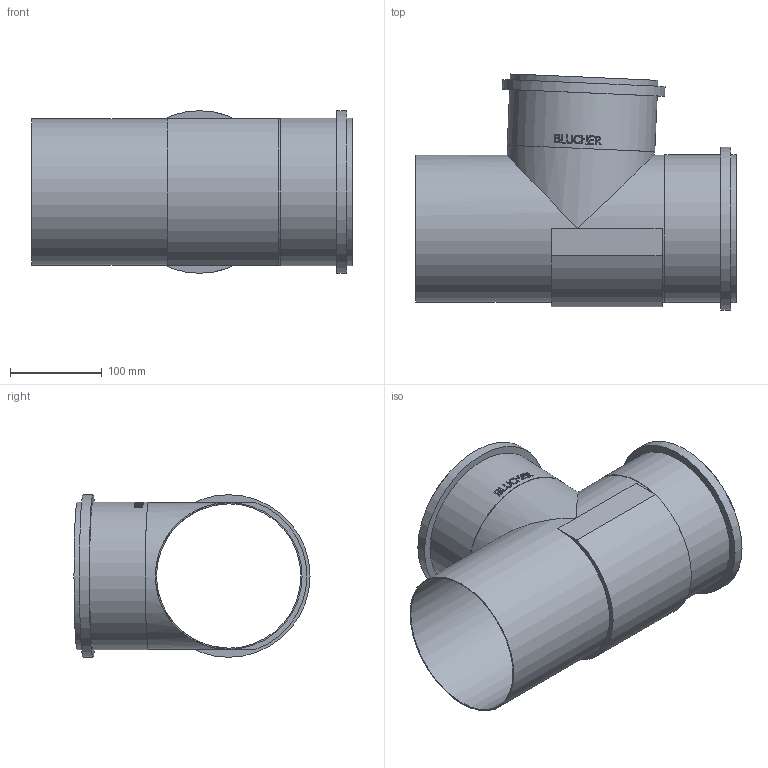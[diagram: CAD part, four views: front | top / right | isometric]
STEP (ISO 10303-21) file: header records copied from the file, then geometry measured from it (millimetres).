
FILE_DESCRIPTION((''),'2;1');
FILE_NAME('I:\WATTS\3D_CAD\3D_CAD_Models\Blucher_Drains\Fittings\Access Fittings\WebsiteFiles\3D\STEP\AT-6x6-316.stp','2009-12-22T09:04:31',('menesek'),(''),'Autodesk Inventor 2010','Autodesk Inventor 2010','');
FILE_SCHEMA(('AUTOMOTIVE_DESIGN { 1 0 10303 214 1 1 1 1 }'));
Length unit declared in the file: inch
Products named in the file (1): AT-6x6-316
Bounding box: 349.19 x 256.99 x 177.04 mm (x, y, z)
Volume: 534373.6 mm3; surface area: 437637.7 mm2
Topology: 1 solids, 1 shells, 141 faces, 369 edges, 246 vertices
Faces by surface type: plane 72, bspline 47, cylinder 22
Full cylindrical faces by diameter (mm): 157.226 x2, 159.766 x3, 160.782 x4, 177.038 x2
Entity records: 17058 total; most frequent: CARTESIAN_POINT 13974, ORIENTED_EDGE 708, DIRECTION 463, EDGE_CURVE 354, VERTEX_POINT 242, EDGE_LOOP 172, AXIS2_PLACEMENT_3D 158, VECTOR 147
